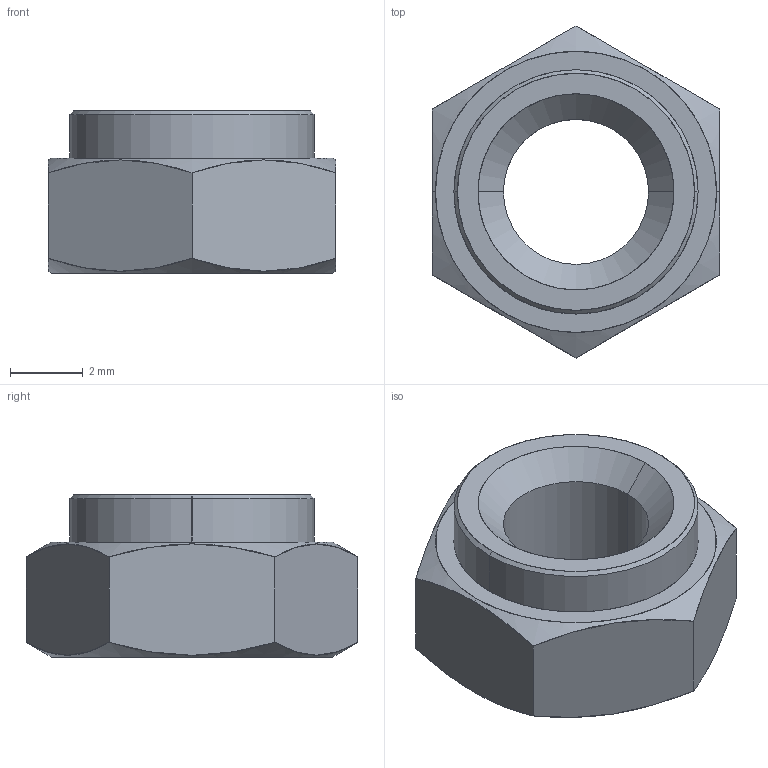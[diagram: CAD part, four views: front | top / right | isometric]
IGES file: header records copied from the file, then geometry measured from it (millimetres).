
Start section: SolidWorks IGES file using analytic representation for surfaces
Global section: file name: C:\Users\liam_\OneDrive\Desktop\Work\Mat Davis Pending 20181125\automotion\P SERIES\P0827.ZP_v2\P0827.ZP_v2_20181231_IGES\P0827.040-22G-ZP.igs; native system: SolidWorks 2017; preprocessor: SolidWorks 2017; author: liam_; date: 181231.110357; units: millimetre
Bounding box: 7.92 x 9.15 x 4.47 mm (x, y, z)
Surface area: 236.7 mm2 (no closed solid volume)
Topology: 0 solids, 0 shells, 23 faces, 376 edges, 376 vertices
Faces by surface type: revolution 14, bspline 9
